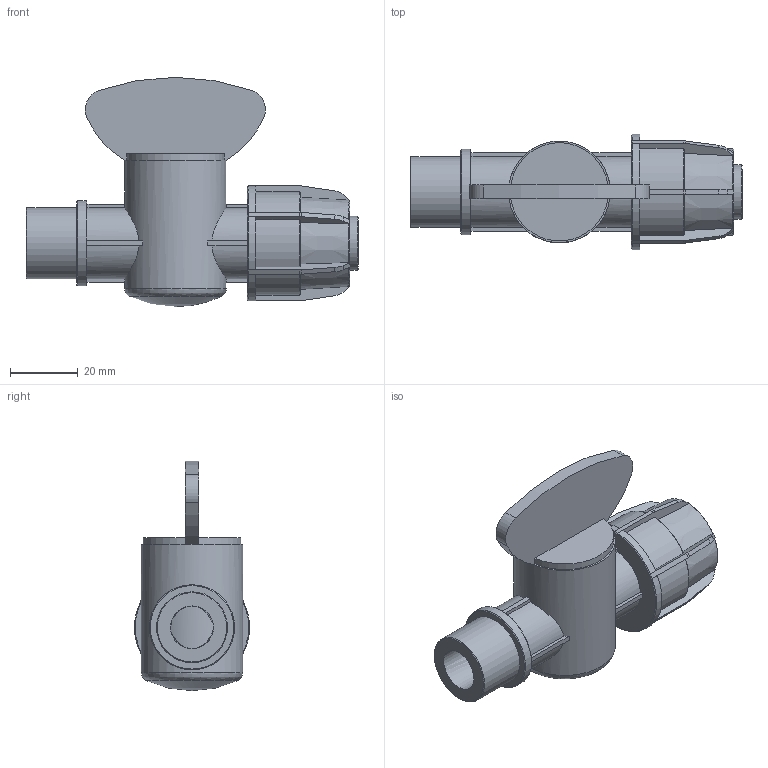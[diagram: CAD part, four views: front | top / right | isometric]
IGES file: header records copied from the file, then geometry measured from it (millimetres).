
Global section: file name: 03010516.ipt; native system: Autodesk Inventor 2015; preprocessor: unknown; author: KIM; date: 20170618.093030; units: millimetre
Bounding box: 98 x 34 x 67.7 mm (x, y, z)
Volume: 60388.6 mm3; surface area: 17971.2 mm2
Topology: 1 solids, 1 shells, 165 faces, 462 edges, 305 vertices
Faces by surface type: plane 88, cylinder 45, cone 28, revolution 3, sphere 1
Full cylindrical faces by diameter (mm): 16 x1, 20.955 x1, 25.146 x1, 30 x1
